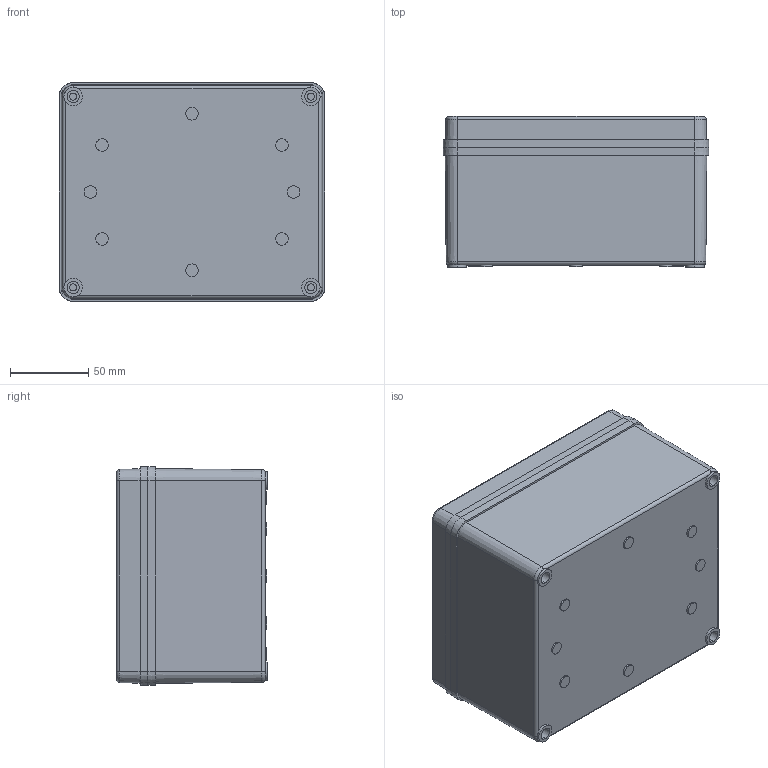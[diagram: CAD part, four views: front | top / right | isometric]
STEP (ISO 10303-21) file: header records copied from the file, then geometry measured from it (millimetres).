
FILE_DESCRIPTION((''),'1');
FILE_NAME('ETLF_housing.step','2022-03-24T10:56:43',(''),(''),'','','');
FILE_SCHEMA(('AUTOMOTIVE_DESIGN { 1 0 10303 214 1 1 1 1 }'));
Products named in the file (4): ETLF housing; ETLF cover 01; ETLF part 02; ETLF screw 01
Assembly tree (6 placements, depth 2):
  ETLF housing
    ETLF cover 01
    ETLF part 02
    ETLF screw 01  x4
Bounding box: 170 x 96.5 x 140 mm (x, y, z)
Volume: 325042.8 mm3; surface area: 217736 mm2
Topology: 6 solids, 6 shells, 495 faces, 1237 edges, 818 vertices
Faces by surface type: plane 283, cylinder 160, cone 24, bspline 20, torus 8
Entity records: 13258 total; most frequent: CARTESIAN_POINT 2707, DIRECTION 2245, ORIENTED_EDGE 2108, EDGE_CURVE 1054, AXIS2_PLACEMENT_3D 794, VERTEX_POINT 695, LINE 657, VECTOR 657
